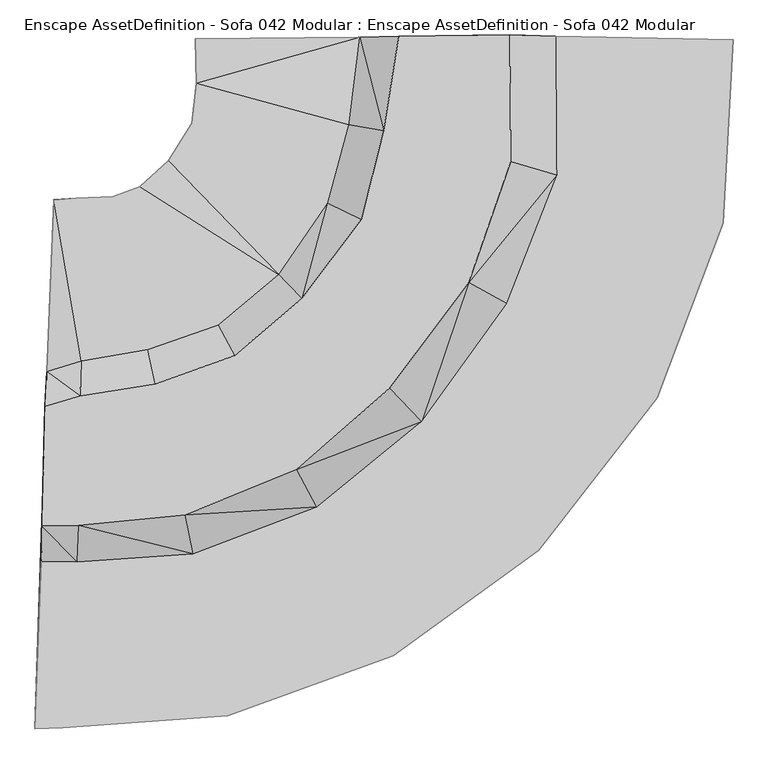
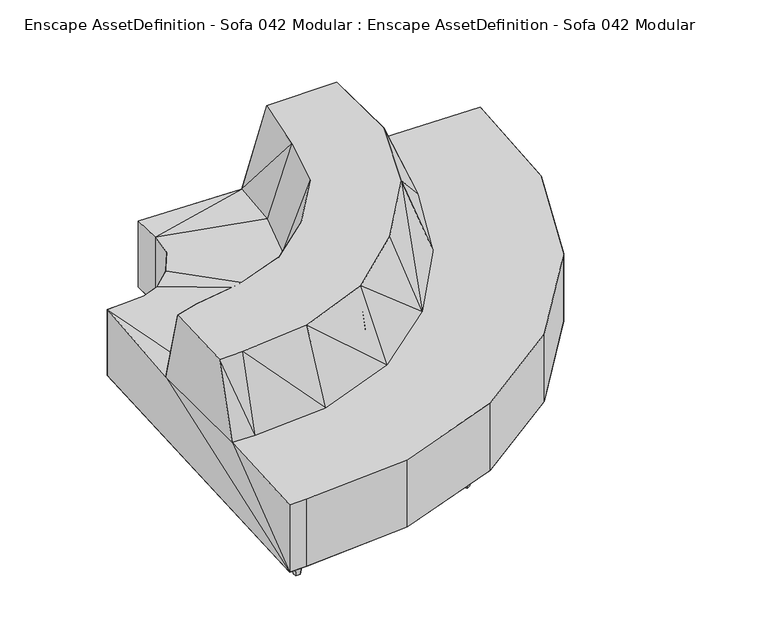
"""IFC4 building model written with IfcOpenShell, lengths in millimetres: geographic element geometry, Enscape AssetDefinition - Sofa 042 Modular : Enscape AssetDefinition - Sofa 042 Modular."""

from ifc_helpers import new_model, si_unit, origin, place, context, project, spatial, triangles, source, transform, mapped, element, save


def enscape_assetdefinition_sofa_042_modular_enscape_2f449a92(model_context):
    return source(origin(), model_context, "Body", "Tessellation", [
        triangles([(-915.3984129, -928.2391989, 375.0073789), (-898.6753057, -475.3002397, 375.0070882), (-915.3984129, -928.2394896, 71.5240454), (-840.639822, -926.4356026, 375.0073789), (-840.640476, -926.4358932, 71.5240681), (-394.3003873, -893.6583881, 71.5240908), (-800.7589714, -477.2140763, 375.0070882), (-394.301223, -893.6579521, 375.0073789), (447.7293208, -446.3368186, 375.0071972), (447.7293208, -446.3368913, 71.5239864), (53.6222311, -730.7088867, 71.5240681), (-632.0335144, 539.0558321, 71.5231688), (-705.5176918, 511.8913565, 71.5231915), (767.9303066, -33.1924416, 71.5238138), (-554.9504288, 608.687701, 71.5231279), (-490.8826097, 710.8154062, 71.5230644), (-490.881774, 710.8156969, 368.9409977), (767.9305973, -33.1921873, 375.0069792), (972.9494785, 936.2305716, 71.5232324), (945.6770153, 440.4265689, 71.5235685), (-481.4900871, 939.3166477, 71.5229599), (-479.5564842, 818.0006516, 71.5230462), (-481.4900871, 939.3173018, 368.940925), (972.9497692, 936.2304989, 375.0064705), (-37.4657523, 943.4800564, 355.0249866), (945.677306, 440.4262782, 375.0067248), (493.9497554, 945.9323776, 375.0063978), (371.3725717, 605.8190535, 692.3123205), (68.8588011, 946.138179, 691.4298162), (369.2206681, 949.3602207, 691.4298889), (360.4498372, 222.4560073, 375.0068338), (496.2902375, 569.9781089, 375.0065432), (27.9362172, 689.9428431, 691.4396267), (-32.6562552, 449.7923126, 692.1746109), (-66.7779915, 706.5724966, 375.6200232), (44.311326, -6.1398312, 691.7223129), (-193.3538956, 235.3913551, 691.1029467), (-256.4824551, 300.9504167, 374.5477776), (-124.0449811, 494.2380372, 375.2369433), (-479.5564842, 818.0009422, 368.9409614), (-554.9502471, 608.6880644, 368.9410704), (-375.469451, 81.5913679, 691.5746475), (-419.8582023, 164.1003578, 374.6039151), (-632.0335144, 539.0558684, 368.9410704), (-705.5173285, 511.8919015, 368.941143), (-804.045108, 507.0964093, 71.523296), (-804.0440907, 507.0967, 368.941143), (-590.2420973, 4.7156168, 691.103964), (-609.8737478, 97.8252879, 375.3753797), (-206.6513397, -227.2788052, 690.7508606), (-792.5021353, -28.2745914, 690.949613), (-864.3438257, 502.962214, 368.941143), (-790.3489237, 66.6885393, 375.3251284), (-797.0897186, -378.6674752, 691.469058), (-888.4273121, -56.5775104, 691.4304703), (-883.7470745, 37.875888, 355.0254953), (-508.711645, -349.2726488, 690.9613129), (-896.7679367, -379.6635263, 691.4306156), (-486.7770464, -454.6873627, 375.0071609), (-864.3443344, 502.961451, 71.523296), (53.6215635, -730.7088867, 375.0073062), (-152.7951249, -328.3023082, 375.0071609), (130.6672513, -96.2234598, 375.0069792), (257.8399485, 278.9672563, 691.8273937), (-856.716457, -872.4755968, -4.17e-05), (-827.6775318, -881.2201212, 85.5440608), (-857.4012262, -853.5751516, -4.17e-05), (-867.5395609, -844.145858, 85.5440608), (-866.1456779, -882.6139315, 85.5440608), (-838.5007084, -852.890237, -4.17e-05), (-829.0714874, -842.7519751, 85.5440608), (-837.8157938, -871.7907549, -4.17e-05), (-819.1769606, -254.6495546, -4.17e-05), (-838.0606916, -255.7015071, -4.17e-05), (-839.1125896, -236.8178305, -4.17e-05), (-847.2912329, -266.0210807, 85.5440608), (-849.4321632, -227.5872893, 85.5440608), (-810.99839, -225.4463226, 85.5440608), (-820.2289312, -235.765878, -4.17e-05), (-808.857387, -263.8800776, 85.5440608), (-828.5423773, -149.5351767, -4.17e-05), (-827.4904066, -168.4188078, -4.17e-05), (-798.2871746, -176.5973784, 85.5440608), (-809.6586462, -148.4831606, -4.17e-05), (-836.7209478, -178.7383814, 85.5440608), (-838.8618782, -140.3046264, 85.5440608), (-808.6067482, -167.3668553, -4.17e-05), (-800.428105, -138.1636415, 85.5440608), (-816.6991322, 460.0287881, -4.17e-05), (-797.8154737, 461.0808314, -4.17e-05), (-815.6472342, 441.1452387, -4.17e-05), (-786.4439295, 432.9666318, 85.5440608), (-824.8777754, 430.8255924, 85.5440608), (-827.0187057, 469.2593657, 85.5440608), (-788.5849325, 471.4003687, 85.5440608), (-796.7635757, 442.1972457, -4.17e-05), (-412.2089962, 888.7033127, -4.17e-05), (-430.0406113, 868.7676109, -4.17e-05), (-411.1570255, 869.8195089, -4.17e-05), (-400.8374156, 860.5889677, 85.5440608), (-431.0925819, 887.6514147, -4.17e-05), (-439.2712252, 858.4480373, 85.5440608), (-441.4122282, 896.8818106, 85.5440608), (-402.978455, 899.0228136, 85.5440608), (-307.8518849, -119.7143316, -4.17e-05), (-286.3035454, -141.0541991, 85.5440608), (-316.3632477, -145.0709234, -4.17e-05), (-324.7858804, -128.1369461, -4.17e-05), (-320.7690834, -158.1966665, 85.5440608), (-337.9115327, -123.7311376, 85.5440608), (-299.4292704, -136.6483088, -4.17e-05), (-303.446031, -106.5886611, 85.5440608), (-232.2291753, -77.0221519, -4.17e-05), (-237.8131549, -103.1796759, -4.17e-05), (-240.7037307, -116.7200285, 85.5440608), (-248.0999725, -87.3088968, -4.17e-05), (-261.6402798, -84.4183665, 85.5440608), (-229.3386359, -63.4817719, 85.5440608), (-208.4020868, -95.783434, 85.5440608), (-221.9424122, -92.8929037, -4.17e-05), (121.0949977, 310.0160334, -4.17e-05), (150.692864, 303.4064804, 85.5440608), (130.6249483, 270.5581221, 85.5440608), (127.3744745, 284.0166392, -4.17e-05), (111.2350163, 293.8766115, -4.17e-05), (97.77659, 290.6260468, 85.5440608), (117.8445238, 323.4744052, 85.5440608), (137.2344468, 300.1560611, -4.17e-05), (155.4956868, 369.1209649, -4.17e-05), (172.5854321, 361.0192065, -4.17e-05), (193.7274738, 382.7617021, 85.5440608), (177.2381278, 347.9789778, 85.5440608), (163.5973725, 386.2107648, -4.17e-05), (142.4554126, 364.4683419, 85.5440608), (158.9447677, 399.2510299, 85.5440608), (180.6872087, 378.1091154, -4.17e-05), (274.8640184, 888.9769152, -4.17e-05), (285.3095472, 898.0646599, 85.5440608), (273.552416, 870.1096075, -4.17e-05), (282.6401062, 859.6640242, 85.5440608), (244.239416, 862.3334106, 85.5440608), (254.684963, 871.42101, -4.17e-05), (255.9965472, 890.2885357, -4.17e-05), (246.908857, 900.734119, 85.5440608), (190.9493003, 862.7165995, 85.5440608), (162.2850979, 872.6203554, -4.17e-05), (152.4562466, 862.8689157, 85.5440608), (152.6085447, 901.361915, 85.5440608), (162.359948, 891.5330091, -4.17e-05), (181.2727471, 891.4584497, -4.17e-05), (191.1015985, 901.2096714, 85.5440608), (181.1979697, 872.5455053, -4.17e-05), (-27.2059815, -699.4709679, -4.17e-05), (-10.2720349, -691.0482988, -4.17e-05), (2.8536864, -695.4542072, 85.5440608), (-35.6286029, -682.5370451, -4.17e-05), (-48.7543233, -678.1311367, 85.5440608), (-31.6118491, -712.5966928, 85.5440608), (-18.6946574, -674.1143761, -4.17e-05), (-14.288791, -660.9887238, 85.5440608), (100.3309671, -639.6790506, 85.5440608), (70.7628728, -646.4204996, -4.17e-05), (67.5724834, -659.8933691, 85.5440608), (60.8309617, -630.3252611, -4.17e-05), (47.3581059, -627.1348309, 85.5440608), (86.8580976, -636.4886204, -4.17e-05), (80.1165851, -606.9204761, 85.5440608), (76.9261911, -620.3933092, -4.17e-05), (683.5979542, -44.739384, -4.17e-05), (697.0565077, -41.4888284, 85.5440608), (673.7379456, -60.8787877, -4.17e-05), (676.9885466, -74.3372049, 85.5440608), (667.4584597, -34.8794049, -4.17e-05), (644.1399702, -54.2692892, 85.5440608), (657.5985237, -51.0187382, -4.17e-05), (664.2079313, -21.4208991, 85.5440608), (906.3105955, 851.2066916, -4.17e-05), (906.7655823, 870.1141857, -4.17e-05), (916.7884443, 879.6659283, 85.5440608), (887.4031013, 851.6618237, -4.17e-05), (915.8624107, 841.1837568, 85.5440608), (887.8580154, 870.5692451, -4.17e-05), (877.3802393, 842.1097178, 85.5440608), (878.3063456, 880.5919619, 85.5440608)], [[184, 179, 178], [183, 184, 182], [178, 182, 184], [181, 183, 180], [182, 180, 183], [180, 177, 181], [179, 181, 177], [177, 178, 179], [182, 178, 177], [177, 180, 182], [176, 170, 169], [174, 176, 173], [169, 173, 176], [172, 174, 175], [173, 175, 174], [175, 171, 172], [170, 172, 171], [171, 169, 170], [173, 169, 171], [171, 175, 173], [167, 161, 166], [165, 167, 168], [166, 168, 167], [163, 165, 164], [168, 164, 165], [164, 162, 163], [161, 163, 162], [162, 166, 161], [168, 166, 162], [162, 164, 168], [160, 155, 154], [157, 160, 159], [154, 159, 160], [158, 157, 156], [159, 156, 157], [156, 153, 158], [155, 158, 153], [153, 154, 155], [159, 154, 153], [153, 156, 159], [151, 145, 152], [148, 151, 150], [152, 150, 151], [147, 148, 149], [150, 149, 148], [149, 146, 147], [145, 147, 146], [146, 152, 145], [150, 152, 146], [146, 149, 150], [144, 138, 137], [141, 144, 143], [137, 143, 144], [140, 141, 142], [143, 142, 141], [142, 139, 140], [138, 140, 139], [139, 137, 138], [143, 137, 139], [139, 142, 143], [135, 131, 136], [134, 135, 133], [136, 133, 135], [132, 134, 129], [133, 129, 134], [129, 130, 132], [131, 132, 130], [130, 136, 131], [133, 136, 130], [130, 129, 133], [127, 122, 128], [126, 127, 121], [128, 121, 127], [123, 126, 125], [121, 125, 126], [125, 124, 123], [122, 123, 124], [124, 128, 122], [121, 128, 124], [124, 125, 121], [118, 119, 120], [117, 118, 113], [120, 113, 118], [115, 117, 116], [113, 116, 117], [116, 114, 115], [119, 115, 114], [114, 120, 119], [113, 120, 114], [114, 116, 113], [112, 106, 111], [110, 112, 105], [111, 105, 112], [109, 110, 108], [105, 108, 110], [108, 107, 109], [106, 109, 107], [107, 111, 106], [105, 111, 107], [107, 108, 105], [104, 100, 99], [103, 104, 97], [99, 97, 104], [102, 103, 101], [97, 101, 103], [101, 98, 102], [100, 102, 98], [98, 99, 100], [97, 99, 98], [98, 101, 97], [95, 92, 96], [94, 95, 90], [96, 90, 95], [93, 94, 89], [90, 89, 94], [89, 91, 93], [92, 93, 91], [91, 96, 92], [90, 96, 91], [91, 89, 90], [88, 83, 87], [86, 88, 84], [87, 84, 88], [85, 86, 81], [84, 81, 86], [81, 82, 85], [83, 85, 82], [82, 87, 83], [84, 87, 82], [82, 81, 84], [78, 80, 73], [77, 78, 79], [73, 79, 78], [76, 77, 75], [79, 75, 77], [75, 74, 76], [80, 76, 74], [74, 73, 80], [79, 73, 74], [74, 75, 79], [71, 66, 72], [68, 71, 70], [72, 70, 71], [69, 68, 67], [70, 67, 68], [67, 65, 69], [66, 69, 65], [65, 72, 66], [70, 72, 65], [65, 67, 70], [31, 18, 26], [64, 36, 63], [63, 31, 64], [63, 36, 50], [31, 63, 9], [9, 18, 31], [9, 63, 62], [50, 62, 63], [62, 61, 9], [61, 62, 59], [47, 46, 60], [60, 52, 47], [52, 60, 56], [58, 55, 56], [54, 7, 59], [7, 54, 58], [55, 58, 54], [62, 50, 57], [57, 59, 62], [59, 57, 54], [51, 54, 57], [56, 55, 51], [54, 51, 55], [53, 47, 52], [52, 56, 53], [51, 53, 56], [48, 57, 50], [53, 51, 48], [57, 48, 51], [42, 50, 36], [50, 42, 48], [49, 48, 42], [47, 53, 49], [48, 49, 53], [49, 45, 47], [45, 13, 46], [46, 47, 45], [13, 45, 44], [43, 44, 45], [45, 49, 43], [42, 43, 49], [43, 42, 37], [36, 37, 42], [38, 41, 44], [44, 43, 38], [37, 38, 43], [17, 41, 38], [25, 23, 40], [40, 35, 25], [35, 40, 17], [17, 39, 35], [38, 39, 17], [39, 38, 37], [37, 34, 39], [34, 37, 36], [36, 64, 34], [25, 35, 33], [33, 35, 39], [39, 34, 33], [28, 33, 34], [34, 64, 28], [26, 32, 31], [32, 28, 64], [64, 31, 32], [30, 28, 32], [33, 29, 25], [29, 33, 28], [28, 30, 29], [27, 32, 26], [26, 24, 27], [32, 27, 30], [27, 25, 29], [29, 30, 27], [19, 24, 26], [24, 19, 27], [27, 19, 21], [21, 25, 27], [21, 23, 25], [22, 40, 23], [23, 21, 22], [17, 40, 22], [20, 22, 21], [21, 19, 20], [26, 20, 19], [26, 18, 14], [14, 20, 26], [14, 18, 9], [22, 16, 17], [20, 14, 16], [16, 22, 20], [15, 41, 17], [17, 16, 15], [44, 41, 15], [10, 15, 16], [16, 14, 10], [9, 10, 14], [15, 12, 44], [12, 15, 10], [44, 12, 13], [10, 11, 12], [9, 61, 11], [11, 10, 9], [59, 8, 61], [11, 61, 8], [8, 59, 7], [12, 11, 6], [6, 13, 12], [8, 6, 11], [13, 6, 5], [5, 46, 13], [60, 46, 5], [7, 4, 8], [6, 8, 4], [4, 5, 6], [4, 7, 2], [58, 2, 7], [56, 2, 58], [2, 1, 4], [5, 4, 1], [5, 3, 60], [1, 3, 5], [56, 60, 3], [3, 2, 56], [3, 1, 2]], closed=False),
    ])


if __name__ == "__main__":
    model = new_model("IFC4")
    model_context = context("Model", 3, world=origin())
    ifc_project = project(units=[si_unit("LENGTHUNIT", "METRE", prefix="MILLI")], contexts=[model_context])
    site = spatial("IfcSite", under=ifc_project)
    building = spatial("IfcBuilding", under=site)
    placement = place(None, origin())
    enscape_assetdefinition_sofa_042_modular_enscape_shape = enscape_assetdefinition_sofa_042_modular_enscape_2f449a92(model_context)
    element("IfcGeographicElement", 1, ObjectType="Enscape AssetDefinition - Sofa 042 Modular : Enscape AssetDefinition - Sofa 042 Modular", at=placement, inside=building, context=model_context, shape_type="MappedRepresentation", body=[
        mapped(enscape_assetdefinition_sofa_042_modular_enscape_shape, transform((0.0, 0.0, 0.0), x_axis=(1.0, 0.0, 0.0), y_axis=(0.0, 1.0, 0.0), z_axis=(0.0, 0.0, 1.0))),
    ])
    save(model, "model.ifc")
